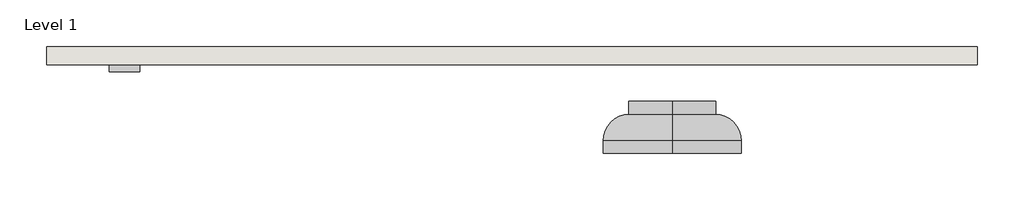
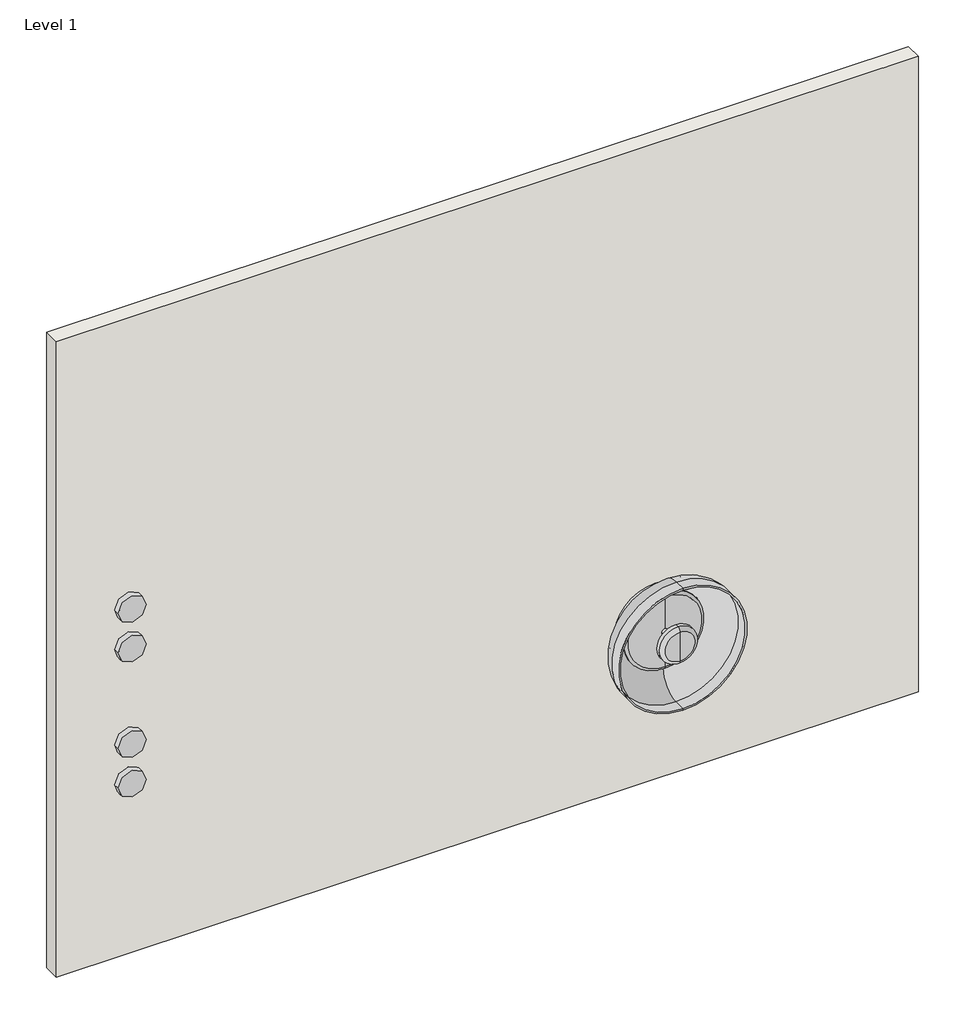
# One storey: 4 proxies, 1 light fixture, 1 wall.
"""IFC4 building model written with IfcOpenShell, lengths in millimetres."""

import ifcopenshell
import ifcopenshell.guid

model = None  # the IFC model being written
_history = None  # IfcOwnerHistory: only IFC2X3 demands one
_inside = {}  # id of a spatial element -> (the spatial element, [elements in it])
_under = {}  # id of a project, library or spatial element -> (it, [spatial elements below it])
_declared = {}  # id of a project -> (the project, [libraries it declares])
_typed = {}  # id of a type object -> (the type object, [elements of that type])
_made_of = {}  # id of a material, layer set ... -> (it, [elements and type objects made of it])


def new_model(schema):
    """Start an empty IFC model of exactly this schema.

    Asked for "IFC4X3", IfcOpenShell would pick the latest addendum, in which some entities
    have other attributes; the version numbers below select the first issue.
    IFC2X3 requires an IfcOwnerHistory on every rooted entity: one is made here for all.
    """
    global model, _history
    if schema == "IFC4X3":
        model = ifcopenshell.file(schema_version=(4, 3, 0, 0))
    else:
        model = ifcopenshell.file(schema=schema)
    _inside.clear()
    _under.clear()
    _declared.clear()
    _typed.clear()
    _made_of.clear()
    _history = None
    if model.schema == "IFC2X3":
        org = make("IfcOrganization", Name="unknown")
        user = make(
            "IfcPersonAndOrganization",
            ThePerson=make("IfcPerson", FamilyName="unknown"),
            TheOrganization=org,
        )
        app = make(
            "IfcApplication",
            ApplicationDeveloper=org,
            Version="unknown",
            ApplicationFullName="unknown",
            ApplicationIdentifier="unknown",
        )
        _history = make(
            "IfcOwnerHistory",
            OwningUser=user,
            OwningApplication=app,
            ChangeAction="ADDED",
            CreationDate=0,
        )
    return model


def make(cls, **values):
    """One entity of the class cls with the attributes given. An attribute that is None is left unset."""
    return model.create_entity(
        cls, **{name: value for name, value in values.items() if value is not None}
    )


def rooted(cls, **values):
    """An entity with a GlobalId (a new one), such as an element, a storey or a relation."""
    return make(cls, GlobalId=ifcopenshell.guid.new(), OwnerHistory=_history, **values)


def si_unit(unit_type, name, prefix=None):
    """IfcSIUnit, for example si_unit("LENGTHUNIT", "METRE", prefix="MILLI")."""
    return make("IfcSIUnit", UnitType=unit_type, Prefix=prefix, Name=name)


def assignment(units):
    """IfcUnitAssignment: the units of a project."""
    return None if units is None else make("IfcUnitAssignment", Units=units)


def point(xyz):
    """IfcCartesianPoint."""
    return None if xyz is None else make("IfcCartesianPoint", Coordinates=xyz)


def direction(xyz):
    """IfcDirection."""
    return None if xyz is None else make("IfcDirection", DirectionRatios=xyz)


def frame(location, z_axis=None, x_axis=None):
    """IfcAxis2Placement3D, a coordinate frame: its origin and axes. An axis left out is left unset."""
    return make(
        "IfcAxis2Placement3D",
        Location=point(location),
        Axis=direction(z_axis),
        RefDirection=direction(x_axis),
    )


def frame_2d(location, x_axis=None):
    """IfcAxis2Placement2D, a coordinate frame in the plane: its origin and x axis."""
    return make(
        "IfcAxis2Placement2D", Location=point(location), RefDirection=direction(x_axis)
    )


def origin():
    """The frame at (0, 0, 0) with its axes left unset."""
    return frame((0.0, 0.0, 0.0))


def origin_with_axes():
    """The frame at (0, 0, 0) with the z axis (0, 0, 1) and the x axis (1, 0, 0) written out."""
    return frame((0.0, 0.0, 0.0), z_axis=(0.0, 0.0, 1.0), x_axis=(1.0, 0.0, 0.0))


def place(relative_to, where):
    """IfcLocalPlacement: puts the frame where relative to a parent placement (None: the world)."""
    return make(
        "IfcLocalPlacement", PlacementRelTo=relative_to, RelativePlacement=where
    )


def context(
    kind, dimensions, precision=None, world=None, true_north=None, identifier=None
):
    """IfcGeometricRepresentationContext, for example the 3D "Model" context."""
    return make(
        "IfcGeometricRepresentationContext",
        ContextIdentifier=identifier,
        ContextType=kind,
        CoordinateSpaceDimension=dimensions,
        Precision=precision,
        WorldCoordinateSystem=world,
        TrueNorth=true_north,
    )


def project(units=None, contexts=None):
    """IfcProject with its units and contexts."""
    return rooted(
        "IfcProject",
        Name="project",
        RepresentationContexts=contexts,
        UnitsInContext=assignment(units),
    )


def spatial(cls, under=None, at=None, **own):
    """A site, building, storey or space (cls), placed at a placement, below another one or the project."""
    s = rooted(cls, ObjectPlacement=at, **own)
    if under is not None:
        _under.setdefault(under.id(), (under, []))[1].append(s)
    return s


def polyline(points):
    """IfcPolyline through the points."""
    return make("IfcPolyline", Points=[point(p) for p in points])


def circle_curve(where, radius):
    """IfcCircle in the frame where."""
    return make("IfcCircle", Position=where, Radius=radius)


def ellipse_curve(where, semi_axis1, semi_axis2):
    """IfcEllipse in the frame where."""
    return make(
        "IfcEllipse", Position=where, SemiAxis1=semi_axis1, SemiAxis2=semi_axis2
    )


def trimmed(basis, trim1, trim2, sense, master):
    """IfcTrimmedCurve: the piece of a basis curve between two trims."""
    return make(
        "IfcTrimmedCurve",
        BasisCurve=basis,
        Trim1=trim1,
        Trim2=trim2,
        SenseAgreement=sense,
        MasterRepresentation=master,
    )


def segment(curve, same_sense, transition):
    """IfcCompositeCurveSegment."""
    return make(
        "IfcCompositeCurveSegment",
        Transition=transition,
        SameSense=same_sense,
        ParentCurve=curve,
    )


def composite_curve(segments, self_intersect=None):
    """IfcCompositeCurve: segments joined end to end."""
    return make("IfcCompositeCurve", Segments=segments, SelfIntersect=self_intersect)


def outline(outer, holes=None, kind="AREA"):
    """IfcArbitraryClosedProfileDef: a profile drawn as a closed curve; with holes, ...WithVoids."""
    if holes is None:
        return make("IfcArbitraryClosedProfileDef", ProfileType=kind, OuterCurve=outer)
    return make(
        "IfcArbitraryProfileDefWithVoids",
        ProfileType=kind,
        OuterCurve=outer,
        InnerCurves=holes,
    )


def extrude(swept, where, along, depth):
    """IfcExtrudedAreaSolid: the profile swept, set in the frame where, extruded along a direction by depth."""
    return make(
        "IfcExtrudedAreaSolid",
        SweptArea=swept,
        Position=where,
        ExtrudedDirection=direction(along),
        Depth=depth,
    )


def shape(context_of_items, identifier, shape_type, items):
    """IfcShapeRepresentation: the items that make up one representation, for example the "Body"."""
    return make(
        "IfcShapeRepresentation",
        ContextOfItems=context_of_items,
        RepresentationIdentifier=identifier,
        RepresentationType=shape_type,
        Items=items,
    )


def source(mapping_origin, context_of_items, identifier, shape_type, items):
    """IfcRepresentationMap: a shape defined once, which mapped items show again and again."""
    return make(
        "IfcRepresentationMap",
        MappingOrigin=mapping_origin,
        MappedRepresentation=shape(context_of_items, identifier, shape_type, items),
    )


def transform(
    local_origin,
    x_axis=None,
    y_axis=None,
    z_axis=None,
    scale=None,
    scale2=None,
    scale3=None,
    uniform=True,
):
    """IfcCartesianTransformationOperator3D, or its non-uniform kind. x_axis, y_axis, z_axis: its Axis1, 2, 3."""
    if uniform:
        return make(
            "IfcCartesianTransformationOperator3D",
            Axis1=direction(x_axis),
            Axis2=direction(y_axis),
            LocalOrigin=point(local_origin),
            Scale=scale,
            Axis3=direction(z_axis),
        )
    return make(
        "IfcCartesianTransformationOperator3DnonUniform",
        Axis1=direction(x_axis),
        Axis2=direction(y_axis),
        LocalOrigin=point(local_origin),
        Scale=scale,
        Axis3=direction(z_axis),
        Scale2=scale2,
        Scale3=scale3,
    )


def mapped(mapping_source, mapping_target):
    """IfcMappedItem: shows the shape of a source again, moved by a transform."""
    return make(
        "IfcMappedItem", MappingSource=mapping_source, MappingTarget=mapping_target
    )


def made_of(thing, what):
    """Note that an element or type object is made of a material, layer set ...; save() writes the relation."""
    if what is not None:
        _made_of.setdefault(what.id(), (what, []))[1].append(thing)
    return thing


def element(
    cls,
    number,
    at=None,
    inside=None,
    cuts=None,
    type_object=None,
    material=None,
    context=None,
    identifier="Body",
    shape_type=None,
    held_by="IfcProductDefinitionShape",
    body=None,
    shapes=None,
    **own,
):
    """One element of the class cls, such as IfcWall. Its Tag is "e" and its number.

    at: its placement. inside: the storey or other place that contains it. cuts: it is an
    opening in that element (IfcRelVoidsElement). A single representation is given by context,
    identifier, shape_type and body (its items); several are given by shapes. held_by: the class
    of the entity that holds the representations. save() writes the other relations.
    """
    e = rooted(cls, Tag="e%d" % number, ObjectPlacement=at, **own)
    if body is not None:
        shapes = [shape(context, identifier, shape_type, body)]
    if shapes is not None:
        e.Representation = make(held_by, Representations=shapes)
    if inside is not None:
        _inside.setdefault(inside.id(), (inside, []))[1].append(e)
    if cuts is not None:
        rooted(
            "IfcRelVoidsElement", RelatingBuildingElement=cuts, RelatedOpeningElement=e
        )
    if type_object is not None:
        _typed.setdefault(type_object.id(), (type_object, []))[1].append(e)
    return made_of(e, material)


def aggregate(whole, parts):
    """IfcRelAggregates: a whole, such as a stair, and the parts it consists of."""
    return rooted("IfcRelAggregates", RelatingObject=whole, RelatedObjects=parts)


def save(model, path):
    """Write the relations noted so far, then the file.

    IfcRelAggregates (storeys below a building ...), IfcRelContainedInSpatialStructure (elements
    in a storey), IfcRelDefinesByType, IfcRelAssociatesMaterial and IfcRelDeclares: one each for
    every whole, place, type object, material and project.
    """
    for whole, parts in _under.values():
        aggregate(whole, parts)
    for where, things in _inside.values():
        rooted(
            "IfcRelContainedInSpatialStructure",
            RelatedElements=things,
            RelatingStructure=where,
        )
    for kind, things in _typed.values():
        rooted("IfcRelDefinesByType", RelatedObjects=things, RelatingType=kind)
    for what, things in _made_of.values():
        rooted("IfcRelAssociatesMaterial", RelatedObjects=things, RelatingMaterial=what)
    for by, libraries in _declared.values():
        rooted("IfcRelDeclares", RelatingContext=by, RelatedDefinitions=libraries)
    model.write(path)


def plane_surface(at):
    """IfcPlane: the flat surface through the origin of the frame at, square to its z axis."""
    return make("IfcPlane", Position=at)


def cylinder_surface(at, radius):
    """IfcCylindricalSurface: all points at the distance radius from the z axis of the frame at."""
    return make("IfcCylindricalSurface", Position=at, Radius=radius)


def revolved_surface(curve, axis_point, axis_direction):
    """IfcSurfaceOfRevolution: the curve turned about the line through axis_point along axis_direction."""
    return make(
        "IfcSurfaceOfRevolution",
        SweptCurve=make("IfcArbitraryOpenProfileDef", ProfileType="CURVE", Curve=curve),
        AxisPosition=make("IfcAxis1Placement", Location=point(axis_point), Axis=direction(axis_direction)),
    )


def advanced_brep(points, edges, surfaces, faces):
    """IfcAdvancedBrep: a solid bounded by faces that lie on surfaces and meet in shared edges.

    An edge is (start, end): straight between two places in points (the first is 0);
    or (start, end, curve); or (start, end, curve, False) where it runs against its curve.
    A face is (place in surfaces, loops), or (place, loops, False) where it looks against
    its surface's normal. A loop lists edges by number (the first is 1), with a minus sign
    where the edge is run from its end to its start. The first loop is the outer one.
    """
    corners = [point(p) for p in points]
    vertices = [make("IfcVertexPoint", VertexGeometry=c) for c in corners]
    made = []
    for start, end, *more in edges:
        made.append(
            make(
                "IfcEdgeCurve",
                EdgeStart=vertices[start],
                EdgeEnd=vertices[end],
                EdgeGeometry=more[0] if more else make("IfcPolyline", Points=[corners[start], corners[end]]),
                SameSense=more[1] if len(more) > 1 else True,
            )
        )
    hull = []
    for where, loops, *sense in faces:
        bounds = []
        for j, loop in enumerate(loops):
            ring = [make("IfcOrientedEdge", EdgeElement=made[abs(k) - 1], Orientation=k > 0) for k in loop]
            bounds.append(
                make(
                    "IfcFaceOuterBound" if j == 0 else "IfcFaceBound",
                    Bound=make("IfcEdgeLoop", EdgeList=ring),
                    Orientation=True,
                )
            )
        hull.append(make("IfcAdvancedFace", Bounds=bounds, FaceSurface=surfaces[where], SameSense=sense[0] if sense else True))
    return make("IfcAdvancedBrep", Outer=make("IfcClosedShell", CfsFaces=hull))


def materialmodel_materialmodel_d9ff14ed(model_context):
    return source(origin(), model_context, "Body", "SweptSolid", [
        extrude(outline(composite_curve([segment(trimmed(circle_curve(frame_2d((75.0, 0.0)), 25.0), [point((75.0, -25.0))], [point((75.0, 25.0))], False, "CARTESIAN"), True, "CONTINUOUS"), segment(trimmed(circle_curve(frame_2d((75.0, 0.0)), 25.0), [point((75.0, 25.0))], [point((75.0, -25.0))], False, "CARTESIAN"), True, "CONTINUOUS")], self_intersect=False)), frame((0.0, -11.8565782, 0.0), z_axis=(0.0, 1.0, 0.0), x_axis=(0.0, 0.0, 1.0)), (0.0, 0.0, 1.0), 11.8565782),
    ])


def type_1_cf90a4b9(model_context):
    return source(origin(), model_context, "Body", "SolidModel", [
        extrude(outline(composite_curve([segment(trimmed(circle_curve(frame_2d((800.0, 125.0)), 5.83629), [point((800.0, 130.83629))], [point((800.0, 119.16371))], False, "CARTESIAN"), True, "CONTINUOUS"), segment(trimmed(circle_curve(frame_2d((800.0, 125.0)), 5.83629), [point((800.0, 119.16371))], [point((800.0, 130.83629))], False, "CARTESIAN"), True, "CONTINUOUS")], self_intersect=False)), frame((0.0, 106.0, 0.0), z_axis=(0.0, 1.0, 0.0), x_axis=(0.0, 0.0, 1.0)), (0.0, 0.0, 1.0), 33.5),
        advanced_brep(
        [(125.0, 161.0038686, 685.0013857), (125.0, 161.0038686, 914.9986143), (125.0, 141.0, 914.9986143), (125.0, 141.0, 685.0013857), (125.0, 161.0038686, 688.0013857), (125.0, 161.0038686, 911.9986143), (125.0, 140.0, 688.0013857), (125.0, 140.0, 911.9986143), (125.0, 100.0, 728.0013857), (125.0, 100.0, 871.9986143), (125.0, 100.0, 800.0), (125.0, 93.0, 734.5), (125.0, 93.0, 865.5), (125.0, 93.0, 800.0), (125.0, 97.0, 734.5), (125.0, 97.0, 865.5), (125.0, 97.0, 729.0013857), (125.0, 97.0, 870.9986143)],
        [
            (0, 1, circle_curve(frame((125.0, 161.0038686, 800.0), z_axis=(0.0, -1.0, 0.0), x_axis=(0.0, 0.0, 1.0)), 114.9986143)),
            (1, 2),
            (2, 3, circle_curve(frame((125.0, 141.0, 800.0), z_axis=(0.0, 1.0, 0.0), x_axis=(0.0, 0.0, 1.0)), 114.9986143)),
            (3, 0),
            (1, 0, circle_curve(frame((125.0, 161.0038686, 800.0), z_axis=(0.0, -1.0, 0.0), x_axis=(0.0, 0.0, 1.0)), 114.9986143)),
            (3, 2, circle_curve(frame((125.0, 141.0, 800.0), z_axis=(0.0, 1.0, 0.0), x_axis=(0.0, 0.0, 1.0)), 114.9986143)),
            (4, 5, circle_curve(frame((125.0, 161.0038686, 800.0), z_axis=(0.0, -1.0, 0.0), x_axis=(0.0, 0.0, 1.0)), 111.9986143)),
            (5, 1),
            (0, 4),
            (5, 4, circle_curve(frame((125.0, 161.0038686, 800.0), z_axis=(0.0, -1.0, 0.0), x_axis=(0.0, 0.0, 1.0)), 111.9986143)),
            (6, 7, circle_curve(frame((125.0, 140.0, 800.0), z_axis=(0.0, -1.0, 0.0), x_axis=(0.0, 0.0, 1.0)), 111.9986143)),
            (7, 5),
            (4, 6),
            (7, 6, circle_curve(frame((125.0, 140.0, 800.0), z_axis=(0.0, -1.0, 0.0), x_axis=(0.0, 0.0, 1.0)), 111.9986143)),
            (8, 9, circle_curve(frame((125.0, 100.0, 800.0), z_axis=(0.0, -1.0, 0.0), x_axis=(0.0, 0.0, 1.0)), 71.9986143)),
            (9, 7, circle_curve(frame((125.0, 140.0, 871.9986143), z_axis=(-1.0, 0.0, 0.0), x_axis=(0.0, 1.0, 0.0)), 40.0)),
            (6, 8, circle_curve(frame((125.0, 140.0, 728.0013857), z_axis=(-1.0, 0.0, 0.0), x_axis=(0.0, 1.0, 0.0)), 40.0)),
            (9, 8, circle_curve(frame((125.0, 100.0, 800.0), z_axis=(0.0, -1.0, 0.0), x_axis=(0.0, 0.0, 1.0)), 71.9986143)),
            (10, 9),
            (8, 10),
            (11, 12, circle_curve(frame((125.0, 93.0, 800.0), z_axis=(0.0, -1.0, 0.0), x_axis=(0.0, 0.0, 1.0)), 65.5)),
            (12, 13),
            (13, 11),
            (12, 11, circle_curve(frame((125.0, 93.0, 800.0), z_axis=(0.0, -1.0, 0.0), x_axis=(0.0, 0.0, 1.0)), 65.5)),
            (14, 15, circle_curve(frame((125.0, 97.0, 800.0), z_axis=(0.0, -1.0, 0.0), x_axis=(0.0, 0.0, 1.0)), 65.5)),
            (15, 12),
            (11, 14),
            (15, 14, circle_curve(frame((125.0, 97.0, 800.0), z_axis=(0.0, -1.0, 0.0), x_axis=(0.0, 0.0, 1.0)), 65.5)),
            (16, 17, circle_curve(frame((125.0, 97.0, 800.0), z_axis=(0.0, -1.0, 0.0), x_axis=(0.0, 0.0, 1.0)), 70.9986143)),
            (17, 15),
            (14, 16),
            (17, 16, circle_curve(frame((125.0, 97.0, 800.0), z_axis=(0.0, -1.0, 0.0), x_axis=(0.0, 0.0, 1.0)), 70.9986143)),
            (2, 17, circle_curve(frame((125.0, 141.0, 870.9986143), z_axis=(1.0, 0.0, 0.0), x_axis=(0.0, 1.0, 0.0)), 44.0)),
            (16, 3, circle_curve(frame((125.0, 141.0, 729.0013857), z_axis=(1.0, 0.0, 0.0), x_axis=(0.0, 1.0, 0.0)), 44.0)),
        ],
        [
            cylinder_surface(frame((125.0, 75.0, 800.0), z_axis=(0.0, 1.0, 0.0), x_axis=(0.0, 0.0, 1.0)), 114.9986143),
            plane_surface(frame((125.0, 161.0038686, 800.0), z_axis=(0.0, 1.0, 0.0), x_axis=(0.0, 0.0, 1.0))),
            revolved_surface(polyline([(125.0, 161.0038686, 911.9986143), (125.0, 140.0, 911.9986143)]), (125.0, 75.0, 800.0), (0.0, 1.0, 0.0)),
            revolved_surface(trimmed(ellipse_curve(frame((125.0, 140.0, 871.9986143), z_axis=(1.0, 0.0, 0.0), x_axis=(0.0, 1.0, 0.0)), 40.0, 40.0), [point((125.0, 140.0, 911.9986143))], [point((125.0, 100.0, 871.9986143))], True, "CARTESIAN"), (125.0, 75.0, 800.0), (0.0, 1.0, 0.0)),
            plane_surface(frame((125.0, 100.0, 800.0), z_axis=(0.0, 1.0, 0.0), x_axis=(0.0, 0.0, 1.0))),
            plane_surface(frame((125.0, 93.0, 800.0), z_axis=(0.0, -1.0, 0.0), x_axis=(0.0, 0.0, 1.0))),
            cylinder_surface(frame((125.0, 75.0, 800.0), z_axis=(0.0, 1.0, 0.0), x_axis=(0.0, 0.0, 1.0)), 65.5),
            plane_surface(frame((125.0, 97.0, 800.0), z_axis=(0.0, -1.0, 0.0), x_axis=(0.0, 0.0, 1.0))),
            revolved_surface(trimmed(ellipse_curve(frame((125.0, 141.0, 870.9986143), z_axis=(-1.0, 0.0, 0.0), x_axis=(0.0, 1.0, 0.0)), 44.0, 44.0), [point((125.0, 97.0, 870.9986143))], [point((125.0, 141.0, 914.9986143))], True, "CARTESIAN"), (125.0, 75.0, 800.0), (0.0, 1.0, 0.0)),
        ],
        [
            (0, [[1, 2, 3, 4]]),
            (0, [[5, -4, 6, -2]]),
            (1, [[7, 8, -1, 9]]),
            (1, [[10, -9, -5, -8]]),
            (2, [[11, 12, -7, 13]]),
            (2, [[14, -13, -10, -12]]),
            (3, [[15, 16, -11, 17]]),
            (3, [[18, -17, -14, -16]]),
            (4, [[19, -15, 20]]),
            (4, [[-20, -18, -19]]),
            (5, [[21, 22, 23]]),
            (5, [[24, -23, -22]]),
            (6, [[25, 26, -21, 27]]),
            (6, [[28, -27, -24, -26]]),
            (7, [[29, 30, -25, 31]]),
            (7, [[32, -31, -28, -30]]),
            (8, [[-3, 33, -29, 34]]),
            (8, [[-6, -34, -32, -33]]),
        ],
    ),
        advanced_brep(
        [(125.0, 97.0, 727.5), (125.0, 97.0, 872.5), (125.0, 75.0, 872.5), (125.0, 75.0, 727.5), (125.0, 97.0, 734.5), (125.0, 97.0, 865.5), (125.0, 93.0, 734.5), (125.0, 93.0, 865.5), (125.0, 93.0, 800.0), (125.0, 75.0, 800.0)],
        [
            (0, 1, circle_curve(frame((125.0, 97.0, 800.0), z_axis=(0.0, -1.0, 0.0), x_axis=(0.0, 0.0, 1.0)), 72.5)),
            (1, 2),
            (2, 3, circle_curve(frame((125.0, 75.0, 800.0), z_axis=(0.0, 1.0, 0.0), x_axis=(0.0, 0.0, 1.0)), 72.5)),
            (3, 0),
            (1, 0, circle_curve(frame((125.0, 97.0, 800.0), z_axis=(0.0, -1.0, 0.0), x_axis=(0.0, 0.0, 1.0)), 72.5)),
            (3, 2, circle_curve(frame((125.0, 75.0, 800.0), z_axis=(0.0, 1.0, 0.0), x_axis=(0.0, 0.0, 1.0)), 72.5)),
            (4, 5, circle_curve(frame((125.0, 97.0, 800.0), z_axis=(0.0, -1.0, 0.0), x_axis=(0.0, 0.0, 1.0)), 65.5)),
            (5, 1),
            (0, 4),
            (5, 4, circle_curve(frame((125.0, 97.0, 800.0), z_axis=(0.0, -1.0, 0.0), x_axis=(0.0, 0.0, 1.0)), 65.5)),
            (6, 7, circle_curve(frame((125.0, 93.0, 800.0), z_axis=(0.0, -1.0, 0.0), x_axis=(0.0, 0.0, 1.0)), 65.5)),
            (7, 5),
            (4, 6),
            (7, 6, circle_curve(frame((125.0, 93.0, 800.0), z_axis=(0.0, -1.0, 0.0), x_axis=(0.0, 0.0, 1.0)), 65.5)),
            (8, 7),
            (6, 8),
            (2, 9),
            (9, 3),
        ],
        [
            cylinder_surface(frame((125.0, 75.0, 800.0), z_axis=(0.0, 1.0, 0.0), x_axis=(0.0, 0.0, 1.0)), 72.5),
            plane_surface(frame((125.0, 97.0, 800.0), z_axis=(0.0, 1.0, 0.0), x_axis=(0.0, 0.0, 1.0))),
            revolved_surface(polyline([(125.0, 97.0, 865.5), (125.0, 93.0, 865.5)]), (125.0, 75.0, 800.0), (0.0, 1.0, 0.0)),
            plane_surface(frame((125.0, 93.0, 800.0), z_axis=(0.0, 1.0, 0.0), x_axis=(0.0, 0.0, 1.0))),
            plane_surface(frame((125.0, 75.0, 800.0), z_axis=(0.0, -1.0, 0.0), x_axis=(0.0, 0.0, 1.0))),
        ],
        [
            (0, [[1, 2, 3, 4]]),
            (0, [[5, -4, 6, -2]]),
            (1, [[7, 8, -1, 9]]),
            (1, [[10, -9, -5, -8]]),
            (2, [[11, 12, -7, 13]]),
            (2, [[14, -13, -10, -12]]),
            (3, [[15, -11, 16]]),
            (3, [[-16, -14, -15]]),
            (4, [[-3, 17, 18]]),
            (4, [[-6, -18, -17]]),
        ],
    ),
        advanced_brep(
        [(125.0, 100.0, 728.5013857), (125.0, 100.0, 871.4986143), (125.0, 100.0, 800.0), (125.0, 101.0, 728.5013857), (125.0, 101.0, 871.4986143), (125.0, 106.0, 733.5013857), (125.0, 106.0, 866.4986143), (125.0, 106.0, 800.0)],
        [
            (0, 1, circle_curve(frame((125.0, 100.0, 800.0), z_axis=(0.0, -1.0, 0.0), x_axis=(0.0, 0.0, 1.0)), 71.4986143)),
            (1, 2),
            (2, 0),
            (1, 0, circle_curve(frame((125.0, 100.0, 800.0), z_axis=(0.0, -1.0, 0.0), x_axis=(0.0, 0.0, 1.0)), 71.4986143)),
            (3, 4, circle_curve(frame((125.0, 101.0, 800.0), z_axis=(0.0, -1.0, 0.0), x_axis=(0.0, 0.0, 1.0)), 71.4986143)),
            (4, 1),
            (0, 3),
            (4, 3, circle_curve(frame((125.0, 101.0, 800.0), z_axis=(0.0, -1.0, 0.0), x_axis=(0.0, 0.0, 1.0)), 71.4986143)),
            (5, 6, circle_curve(frame((125.0, 106.0, 800.0), z_axis=(0.0, -1.0, 0.0), x_axis=(0.0, 0.0, 1.0)), 66.4986143)),
            (6, 4, circle_curve(frame((125.0, 101.0, 866.4986143), z_axis=(1.0, 0.0, 0.0), x_axis=(0.0, 1.0, 0.0)), 5.0)),
            (3, 5, circle_curve(frame((125.0, 101.0, 733.5013857), z_axis=(1.0, 0.0, 0.0), x_axis=(0.0, 1.0, 0.0)), 5.0)),
            (6, 5, circle_curve(frame((125.0, 106.0, 800.0), z_axis=(0.0, -1.0, 0.0), x_axis=(0.0, 0.0, 1.0)), 66.4986143)),
            (7, 6),
            (5, 7),
        ],
        [
            plane_surface(frame((125.0, 100.0, 800.0), z_axis=(0.0, -1.0, 0.0), x_axis=(0.0, 0.0, 1.0))),
            cylinder_surface(frame((125.0, 75.0, 800.0), z_axis=(0.0, 1.0, 0.0), x_axis=(0.0, 0.0, 1.0)), 71.4986143),
            revolved_surface(trimmed(ellipse_curve(frame((125.0, 101.0, 866.4986143), z_axis=(-1.0, 0.0, 0.0), x_axis=(0.0, 1.0, 0.0)), 5.0, 5.0), [point((125.0, 101.0, 871.4986143))], [point((125.0, 106.0, 866.4986143))], True, "CARTESIAN"), (125.0, 75.0, 800.0), (0.0, 1.0, 0.0)),
            plane_surface(frame((125.0, 106.0, 800.0), z_axis=(0.0, 1.0, 0.0), x_axis=(0.0, 0.0, 1.0))),
        ],
        [
            (0, [[1, 2, 3]]),
            (0, [[4, -3, -2]]),
            (1, [[5, 6, -1, 7]]),
            (1, [[8, -7, -4, -6]]),
            (2, [[9, 10, -5, 11]]),
            (2, [[12, -11, -8, -10]]),
            (3, [[13, -9, 14]]),
            (3, [[-14, -12, -13]]),
        ],
    ),
        advanced_brep(
        [(125.0, 139.5, 766.25), (125.0, 139.5, 833.75), (125.0, 139.5, 800.0), (125.0, 146.0477619, 766.25), (125.0, 146.0477619, 833.75), (125.0, 152.5, 772.7022381), (125.0, 152.5, 827.2977619), (125.0, 152.5, 800.0)],
        [
            (0, 1, circle_curve(frame((125.0, 139.5, 800.0), z_axis=(0.0, -1.0, 0.0), x_axis=(0.0, 0.0, 1.0)), 33.75)),
            (1, 2),
            (2, 0),
            (1, 0, circle_curve(frame((125.0, 139.5, 800.0), z_axis=(0.0, -1.0, 0.0), x_axis=(0.0, 0.0, 1.0)), 33.75)),
            (3, 4, circle_curve(frame((125.0, 146.0477619, 800.0), z_axis=(0.0, -1.0, 0.0), x_axis=(0.0, 0.0, 1.0)), 33.75)),
            (4, 1),
            (0, 3),
            (4, 3, circle_curve(frame((125.0, 146.0477619, 800.0), z_axis=(0.0, -1.0, 0.0), x_axis=(0.0, 0.0, 1.0)), 33.75)),
            (5, 6, circle_curve(frame((125.0, 152.5, 800.0), z_axis=(0.0, -1.0, 0.0), x_axis=(0.0, 0.0, 1.0)), 27.2977619)),
            (6, 4, circle_curve(frame((125.0, 146.0477619, 827.2977619), z_axis=(1.0, 0.0, 0.0), x_axis=(0.0, 1.0, 0.0)), 6.4522381)),
            (3, 5, circle_curve(frame((125.0, 146.0477619, 772.7022381), z_axis=(1.0, 0.0, 0.0), x_axis=(0.0, 1.0, 0.0)), 6.4522381)),
            (6, 5, circle_curve(frame((125.0, 152.5, 800.0), z_axis=(0.0, -1.0, 0.0), x_axis=(0.0, 0.0, 1.0)), 27.2977619)),
            (7, 6),
            (5, 7),
        ],
        [
            plane_surface(frame((125.0, 139.5, 800.0), z_axis=(0.0, -1.0, 0.0), x_axis=(0.0, 0.0, 1.0))),
            cylinder_surface(frame((125.0, 75.0, 800.0), z_axis=(0.0, 1.0, 0.0), x_axis=(0.0, 0.0, 1.0)), 33.75),
            revolved_surface(trimmed(ellipse_curve(frame((125.0, 146.0477619, 827.2977619), z_axis=(-1.0, 0.0, 0.0), x_axis=(0.0, 1.0, 0.0)), 6.4522381, 6.4522381), [point((125.0, 146.0477619, 833.75))], [point((125.0, 152.5, 827.2977619))], True, "CARTESIAN"), (125.0, 75.0, 800.0), (0.0, 1.0, 0.0)),
            plane_surface(frame((125.0, 152.5, 800.0), z_axis=(0.0, 1.0, 0.0), x_axis=(0.0, 0.0, 1.0))),
        ],
        [
            (0, [[1, 2, 3]]),
            (0, [[4, -3, -2]]),
            (1, [[5, 6, -1, 7]]),
            (1, [[8, -7, -4, -6]]),
            (2, [[9, 10, -5, 11]]),
            (2, [[12, -11, -8, -10]]),
            (3, [[13, -9, 14]]),
            (3, [[-14, -12, -13]]),
        ],
    ),
    ])


model = new_model("IFC4")

# Units and contexts
model_context = context("Model", 3, world=origin())
ifc_project = project(units=[si_unit("LENGTHUNIT", "METRE", prefix="MILLI")], contexts=[model_context])

# Site, building, storey
site = spatial("IfcSite", under=ifc_project)
building = spatial("IfcBuilding", under=site)
storey = spatial("IfcBuildingStorey", under=building, Name="Level 1", Elevation=0.0)

# Proxies
placement = place(None, origin())
materialmodel_materialmodel_shape = materialmodel_materialmodel_d9ff14ed(model_context)
element("IfcBuildingElementProxy", 1, Name="MaterialModel : MaterialModel", ObjectType="MaterialModel : MaterialModel", at=placement, inside=storey, context=model_context, shape_type="MappedRepresentation", body=[
    mapped(materialmodel_materialmodel_shape, transform((-14154.5629222, 5257.5863071, 327.8742627), x_axis=(1.0, 0.0, 0.0), y_axis=(0.0, 1.0, 0.0), z_axis=(0.0, 0.0, 1.0))),
])
element("IfcBuildingElementProxy", 2, Name="MaterialModel : MaterialModel", ObjectType="MaterialModel : MaterialModel", at=placement, inside=storey, context=model_context, shape_type="MappedRepresentation", body=[
    mapped(materialmodel_materialmodel_shape, transform((-14154.5629222, 5257.5863071, 252.8742627), x_axis=(1.0, 0.0, 0.0), y_axis=(0.0, 1.0, 0.0), z_axis=(0.0, 0.0, 1.0))),
])
element("IfcBuildingElementProxy", 3, Name="MaterialModel : MaterialModel", ObjectType="MaterialModel : MaterialModel", at=placement, inside=storey, context=model_context, shape_type="MappedRepresentation", body=[
    mapped(materialmodel_materialmodel_shape, transform((-14154.5629222, 5257.5863071, 582.8742627), x_axis=(1.0, 0.0, 0.0), y_axis=(0.0, 1.0, 0.0), z_axis=(0.0, 0.0, 1.0))),
])
element("IfcBuildingElementProxy", 4, Name="MaterialModel : MaterialModel", ObjectType="MaterialModel : MaterialModel", at=placement, inside=storey, context=model_context, shape_type="MappedRepresentation", body=[
    mapped(materialmodel_materialmodel_shape, transform((-14154.5629222, 5257.5863071, 507.8742627), x_axis=(1.0, 0.0, 0.0), y_axis=(0.0, 1.0, 0.0), z_axis=(0.0, 0.0, 1.0))),
])

# Light fixture
type_1_shape = type_1_cf90a4b9(model_context)
element("IfcLightFixture", 5, ObjectType="Nuura - Blossi - Wall : Type 1", at=placement, inside=storey, context=model_context, shape_type="MappedRepresentation", body=[
    mapped(type_1_shape, transform((-13123.5118995, 5272.6728282, -454.5513186), x_axis=(-1.0, 0.0, 0.0), y_axis=(0.0, -1.0, 0.0), z_axis=(0.0, 0.0, 1.0))),
])

# Wall
element("IfcWall", 6, ObjectType="Presentation wall", at=placement, inside=storey, context=model_context, shape_type="SweptSolid", body=[
    extrude(outline(polyline([(-12743.5118995, 5257.6728282), (-14283.5118995, 5257.6728282), (-14283.5118995, 5287.6728282), (-12743.5118995, 5287.6728282), (-12743.5118995, 5257.6728282)])), origin_with_axes(), (0.0, 0.0, 1.0), 1200.0),
])

save(model, "model.ifc")
